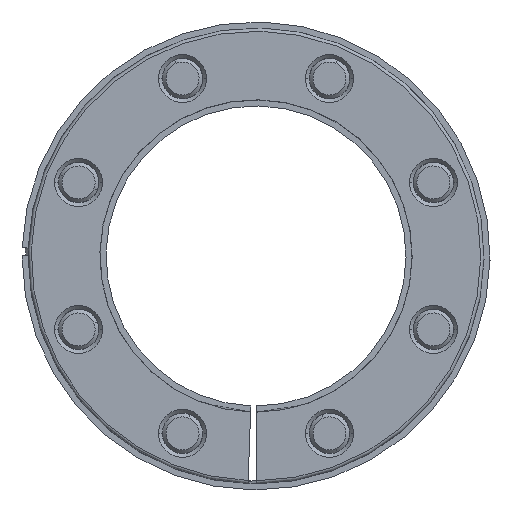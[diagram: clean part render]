
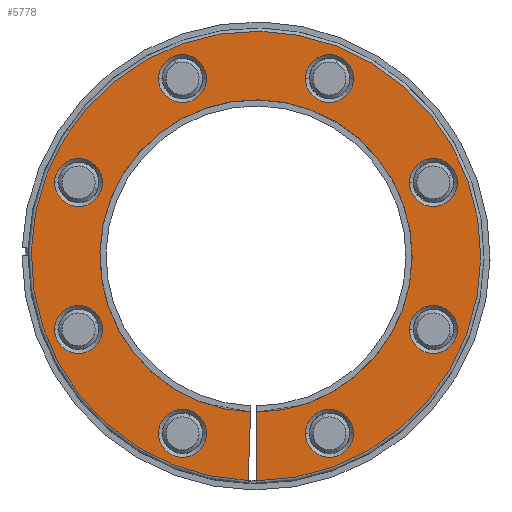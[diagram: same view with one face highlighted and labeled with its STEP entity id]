
A CAD part, left-side view. The second image highlights one B-rep face of the part: STEP entity #5778.
In plain terms, the highlighted planar face has unit normal (-1, 0, 0).
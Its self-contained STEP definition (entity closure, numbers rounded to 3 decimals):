
#1067=CARTESIAN_POINT('',(-14.,0.,0.));
#1068=DIRECTION('',(-1.,0.,0.));
#1069=DIRECTION('',(0.,0.,-1.));
#1070=AXIS2_PLACEMENT_3D('',#1067,#1068,#1069);
#1099=DIRECTION('',(0.,0.,1.));
#1100=VECTOR('',#1099,11.431);
#1101=CARTESIAN_POINT('',(-14.,0.,-37.457));
#1102=LINE('',#1101,#1100);
#1106=DIRECTION('',(0.,-0.035,0.999));
#1107=VECTOR('',#1106,11.431);
#1108=CARTESIAN_POINT('',(-14.,1.307,-37.434));
#1109=LINE('',#1108,#1107);
#1113=CARTESIAN_POINT('',(-14.,12.246,
-29.564));
#1114=DIRECTION('',(1.,0.,0.));
#1115=DIRECTION('',(0.,1.,0.));
#1116=AXIS2_PLACEMENT_3D('',#1113,#1114,#1115);
#1121=CARTESIAN_POINT('',(-14.,12.246,
-29.564));
#1122=DIRECTION('',(1.,0.,0.));
#1123=DIRECTION('',(0.,-1.,0.));
#1124=AXIS2_PLACEMENT_3D('',#1121,#1122,#1123);
#1129=CARTESIAN_POINT('',(-14.,29.564,
-12.246));
#1130=DIRECTION('',(1.,0.,0.));
#1131=DIRECTION('',(0.,1.,0.));
#1132=AXIS2_PLACEMENT_3D('',#1129,#1130,#1131);
#1137=CARTESIAN_POINT('',(-14.,29.564,
-12.246));
#1138=DIRECTION('',(1.,0.,0.));
#1139=DIRECTION('',(0.,-1.,0.));
#1140=AXIS2_PLACEMENT_3D('',#1137,#1138,#1139);
#1145=CARTESIAN_POINT('',(-14.,29.564,12.246));
#1146=DIRECTION('',(1.,0.,0.));
#1147=DIRECTION('',(0.,1.,0.));
#1148=AXIS2_PLACEMENT_3D('',#1145,#1146,#1147);
#1153=CARTESIAN_POINT('',(-14.,29.564,12.246));
#1154=DIRECTION('',(1.,0.,0.));
#1155=DIRECTION('',(0.,-1.,0.));
#1156=AXIS2_PLACEMENT_3D('',#1153,#1154,#1155);
#1161=CARTESIAN_POINT('',(-14.,12.246,29.564));
#1162=DIRECTION('',(1.,0.,0.));
#1163=DIRECTION('',(0.,1.,0.));
#1164=AXIS2_PLACEMENT_3D('',#1161,#1162,#1163);
#1169=CARTESIAN_POINT('',(-14.,12.246,29.564));
#1170=DIRECTION('',(1.,0.,0.));
#1171=DIRECTION('',(0.,-1.,0.));
#1172=AXIS2_PLACEMENT_3D('',#1169,#1170,#1171);
#1177=CARTESIAN_POINT('',(-14.,-12.246,
29.564));
#1178=DIRECTION('',(1.,0.,0.));
#1179=DIRECTION('',(0.,1.,0.));
#1180=AXIS2_PLACEMENT_3D('',#1177,#1178,#1179);
#1185=CARTESIAN_POINT('',(-14.,-12.246,
29.564));
#1186=DIRECTION('',(1.,0.,0.));
#1187=DIRECTION('',(0.,-1.,0.));
#1188=AXIS2_PLACEMENT_3D('',#1185,#1186,#1187);
#1193=CARTESIAN_POINT('',(-14.,-29.564,
12.246));
#1194=DIRECTION('',(1.,0.,0.));
#1195=DIRECTION('',(0.,1.,0.));
#1196=AXIS2_PLACEMENT_3D('',#1193,#1194,#1195);
#1201=CARTESIAN_POINT('',(-14.,-29.564,
12.246));
#1202=DIRECTION('',(1.,0.,0.));
#1203=DIRECTION('',(0.,-1.,0.));
#1204=AXIS2_PLACEMENT_3D('',#1201,#1202,#1203);
#1209=CARTESIAN_POINT('',(-14.,-29.564,
-12.246));
#1210=DIRECTION('',(1.,0.,0.));
#1211=DIRECTION('',(0.,1.,0.));
#1212=AXIS2_PLACEMENT_3D('',#1209,#1210,#1211);
#1217=CARTESIAN_POINT('',(-14.,-29.564,
-12.246));
#1218=DIRECTION('',(1.,0.,0.));
#1219=DIRECTION('',(0.,-1.,0.));
#1220=AXIS2_PLACEMENT_3D('',#1217,#1218,#1219);
#1225=CARTESIAN_POINT('',(-14.,-12.246,
-29.564));
#1226=DIRECTION('',(1.,0.,0.));
#1227=DIRECTION('',(0.,1.,0.));
#1228=AXIS2_PLACEMENT_3D('',#1225,#1226,#1227);
#1233=CARTESIAN_POINT('',(-14.,-12.246,
-29.564));
#1234=DIRECTION('',(1.,0.,0.));
#1235=DIRECTION('',(0.,-1.,0.));
#1236=AXIS2_PLACEMENT_3D('',#1233,#1234,#1235);
#1256=CARTESIAN_POINT('',(-14.,0.,0.));
#1257=DIRECTION('',(1.,0.,0.));
#1258=DIRECTION('',(0.,0.035,-0.999));
#1259=AXIS2_PLACEMENT_3D('',#1256,#1257,#1258);
#4350=CARTESIAN_POINT('',(-14.,16.246,
-29.564));
#4351=CARTESIAN_POINT('',(-14.,8.246,
-29.564));
#4352=VERTEX_POINT('',#4350);
#4353=VERTEX_POINT('',#4351);
#4358=CARTESIAN_POINT('',(-14.,33.564,
-12.246));
#4359=CARTESIAN_POINT('',(-14.,25.564,
-12.246));
#4360=VERTEX_POINT('',#4358);
#4361=VERTEX_POINT('',#4359);
#4366=CARTESIAN_POINT('',(-14.,33.564,12.246));
#4367=CARTESIAN_POINT('',(-14.,25.564,12.246));
#4368=VERTEX_POINT('',#4366);
#4369=VERTEX_POINT('',#4367);
#4374=CARTESIAN_POINT('',(-14.,16.246,29.564));
#4375=CARTESIAN_POINT('',(-14.,8.246,29.564));
#4376=VERTEX_POINT('',#4374);
#4377=VERTEX_POINT('',#4375);
#4382=CARTESIAN_POINT('',(-14.,-8.246,
29.564));
#4383=CARTESIAN_POINT('',(-14.,-16.246,
29.564));
#4384=VERTEX_POINT('',#4382);
#4385=VERTEX_POINT('',#4383);
#4390=CARTESIAN_POINT('',(-14.,-25.564,
12.246));
#4391=CARTESIAN_POINT('',(-14.,-33.564,
12.246));
#4392=VERTEX_POINT('',#4390);
#4393=VERTEX_POINT('',#4391);
#4594=CARTESIAN_POINT('',(-14.,-25.564,
-12.246));
#4595=CARTESIAN_POINT('',(-14.,-33.564,
-12.246));
#4596=VERTEX_POINT('',#4594);
#4597=VERTEX_POINT('',#4595);
#4708=CARTESIAN_POINT('',(-14.,0.,-37.457));
#4710=VERTEX_POINT('',#4708);
#4712=CARTESIAN_POINT('',(-14.,1.307,-37.434));
#4714=VERTEX_POINT('',#4712);
#4724=CARTESIAN_POINT('',(-14.,0.,-26.026));
#4725=VERTEX_POINT('',#4724);
#4726=CARTESIAN_POINT('',(-14.,0.908,-26.01));
#4727=VERTEX_POINT('',#4726);
#4760=CARTESIAN_POINT('',(-14.,-8.246,
-29.564));
#4761=CARTESIAN_POINT('',(-14.,-16.246,
-29.564));
#4762=VERTEX_POINT('',#4760);
#4763=VERTEX_POINT('',#4761);
#5718=CARTESIAN_POINT('',(-14.,0.,0.));
#5719=DIRECTION('',(1.,0.,0.));
#5720=DIRECTION('',(0.,-1.,0.));
#5721=AXIS2_PLACEMENT_3D('',#5718,#5719,#5720);
#5722=PLANE('',#5721);
#5723=ORIENTED_EDGE('',*,*,#5709,.F.);
#5724=ORIENTED_EDGE('',*,*,#5465,.T.);
#5726=ORIENTED_EDGE('',*,*,#5725,.F.);
#5727=ORIENTED_EDGE('',*,*,#5694,.F.);
#5728=EDGE_LOOP('',(#5723,#5724,#5726,#5727));
#5729=FACE_OUTER_BOUND('',#5728,.F.);
#5731=ORIENTED_EDGE('',*,*,#5730,.F.);
#5733=ORIENTED_EDGE('',*,*,#5732,.F.);
#5734=EDGE_LOOP('',(#5731,#5733));
#5735=FACE_BOUND('',#5734,.F.);
#5737=ORIENTED_EDGE('',*,*,#5736,.F.);
#5739=ORIENTED_EDGE('',*,*,#5738,.F.);
#5740=EDGE_LOOP('',(#5737,#5739));
#5741=FACE_BOUND('',#5740,.F.);
#5743=ORIENTED_EDGE('',*,*,#5742,.F.);
#5745=ORIENTED_EDGE('',*,*,#5744,.F.);
#5746=EDGE_LOOP('',(#5743,#5745));
#5747=FACE_BOUND('',#5746,.F.);
#5749=ORIENTED_EDGE('',*,*,#5748,.F.);
#5751=ORIENTED_EDGE('',*,*,#5750,.F.);
#5752=EDGE_LOOP('',(#5749,#5751));
#5753=FACE_BOUND('',#5752,.F.);
#5755=ORIENTED_EDGE('',*,*,#5754,.F.);
#5757=ORIENTED_EDGE('',*,*,#5756,.F.);
#5758=EDGE_LOOP('',(#5755,#5757));
#5759=FACE_BOUND('',#5758,.F.);
#5761=ORIENTED_EDGE('',*,*,#5760,.F.);
#5763=ORIENTED_EDGE('',*,*,#5762,.F.);
#5764=EDGE_LOOP('',(#5761,#5763));
#5765=FACE_BOUND('',#5764,.F.);
#5767=ORIENTED_EDGE('',*,*,#5766,.F.);
#5769=ORIENTED_EDGE('',*,*,#5768,.F.);
#5770=EDGE_LOOP('',(#5767,#5769));
#5771=FACE_BOUND('',#5770,.F.);
#5773=ORIENTED_EDGE('',*,*,#5772,.F.);
#5775=ORIENTED_EDGE('',*,*,#5774,.F.);
#5776=EDGE_LOOP('',(#5773,#5775));
#5777=FACE_BOUND('',#5776,.F.);
#5778=ADVANCED_FACE('',(#5729,#5735,#5741,#5747,#5753,#5759,#5765,#5771,#5777),
#5722,.F.);
#1071=CIRCLE('',#1070,37.457);
#1117=CIRCLE('',#1116,4.);
#1125=CIRCLE('',#1124,4.);
#1133=CIRCLE('',#1132,4.);
#1141=CIRCLE('',#1140,4.);
#1149=CIRCLE('',#1148,4.);
#1157=CIRCLE('',#1156,4.);
#1165=CIRCLE('',#1164,4.);
#1173=CIRCLE('',#1172,4.);
#1181=CIRCLE('',#1180,4.);
#1189=CIRCLE('',#1188,4.);
#1197=CIRCLE('',#1196,4.);
#1205=CIRCLE('',#1204,4.);
#1213=CIRCLE('',#1212,4.);
#1221=CIRCLE('',#1220,4.);
#1229=CIRCLE('',#1228,4.);
#1237=CIRCLE('',#1236,4.);
#1260=CIRCLE('',#1259,26.026);
#5465=EDGE_CURVE('',#4710,#4725,#1102,.T.);
#5694=EDGE_CURVE('',#4714,#4727,#1109,.T.);
#5709=EDGE_CURVE('',#4710,#4714,#1071,.T.);
#5725=EDGE_CURVE('',#4727,#4725,#1260,.T.);
#5730=EDGE_CURVE('',#4352,#4353,#1117,.T.);
#5732=EDGE_CURVE('',#4353,#4352,#1125,.T.);
#5736=EDGE_CURVE('',#4360,#4361,#1133,.T.);
#5738=EDGE_CURVE('',#4361,#4360,#1141,.T.);
#5742=EDGE_CURVE('',#4368,#4369,#1149,.T.);
#5744=EDGE_CURVE('',#4369,#4368,#1157,.T.);
#5748=EDGE_CURVE('',#4376,#4377,#1165,.T.);
#5750=EDGE_CURVE('',#4377,#4376,#1173,.T.);
#5754=EDGE_CURVE('',#4384,#4385,#1181,.T.);
#5756=EDGE_CURVE('',#4385,#4384,#1189,.T.);
#5760=EDGE_CURVE('',#4392,#4393,#1197,.T.);
#5762=EDGE_CURVE('',#4393,#4392,#1205,.T.);
#5766=EDGE_CURVE('',#4596,#4597,#1213,.T.);
#5768=EDGE_CURVE('',#4597,#4596,#1221,.T.);
#5772=EDGE_CURVE('',#4762,#4763,#1229,.T.);
#5774=EDGE_CURVE('',#4763,#4762,#1237,.T.);
